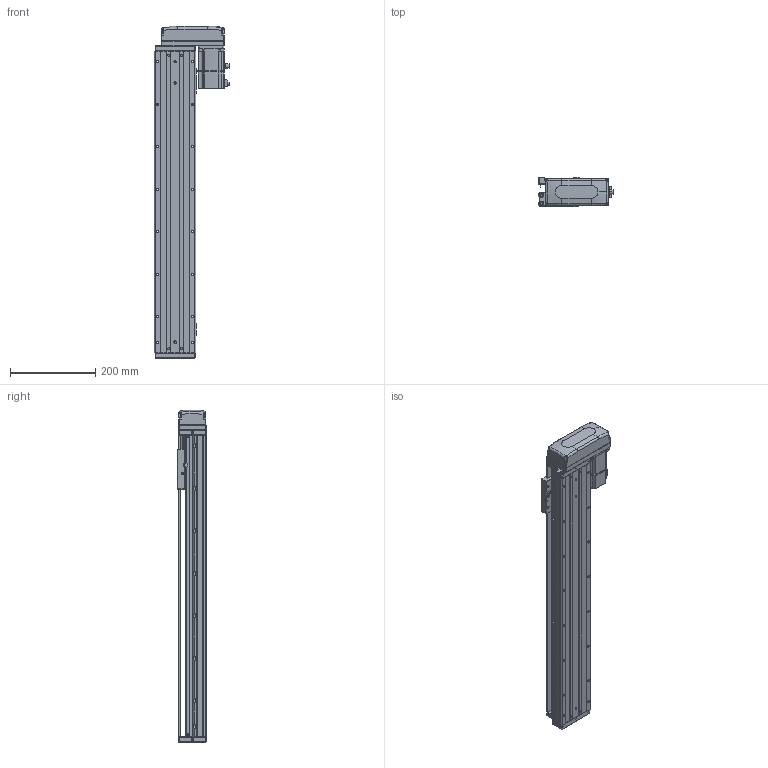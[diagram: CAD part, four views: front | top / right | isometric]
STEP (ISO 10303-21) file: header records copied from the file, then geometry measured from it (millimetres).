
FILE_DESCRIPTION (( 'STEP AP203' ), '1' );
FILE_NAME ('KTHA100-550-BL-M20-C4L.step', '2022-04-26T01:49:14', ( '微软用户' ), ( '微软中国' ), 'SwSTEP 2.0', 'SolidWorks 2020', '' );
FILE_SCHEMA (( 'CONFIG_CONTROL_DESIGN' ));
Length unit declared in the file: millimetre
Products named in the file (17): EE_SX911P_R; GBT 70.3-M3℅6; CTHA60-017; _X2_4E0983F1_X0_200W_1; KTHA100-001_710; CTHA60-021; CTHA86-015-1_CTHA86-015-2; KTHA100-002; GBT77-2000 M3×3; CTHA86-033; KTHA100-004; GBT 70.1-M3℅6; KTHA100-550-BL-M20-C4L; KTHA100-005; GBT70.1 M5℅16; GB¨uT 70.2-M3¡Á5_M3¡Á6; CTHA60-016
Assembly tree (57 placements, depth 2):
  KTHA100-550-BL-M20-C4L
    KTHA100-001_710
    KTHA100-002
    KTHA100-004
    KTHA100-005
    GB¨uT 70.2-M3¡Á5_M3¡Á6  x6
    EE_SX911P_R  x3
    CTHA60-017  x3
    CTHA60-021  x2
    GBT77-2000 M3×3  x6
    GBT 70.1-M3℅6  x10
    GBT70.1 M5℅16  x14
    CTHA60-016  x2
    GBT 70.3-M3℅6  x4
    _X2_4E0983F1_X0_200W_1
    CTHA86-015-1_CTHA86-015-2
    CTHA86-033
Bounding box: 177.7 x 68 x 781 mm (x, y, z)
Volume: 3514643.1 mm3; surface area: 575944.8 mm2
Topology: 60 solids, 60 shells, 2437 faces, 5833 edges, 3616 vertices
Faces by surface type: plane 1244, cylinder 677, cone 309, torus 116, bspline 75, sphere 16
Entity records: 41948 total; most frequent: CARTESIAN_POINT 8448, DIRECTION 6492, ORIENTED_EDGE 6278, EDGE_CURVE 3139, AXIS2_PLACEMENT_3D 2268, VERTEX_POINT 1976, VECTOR 1956, LINE 1956
